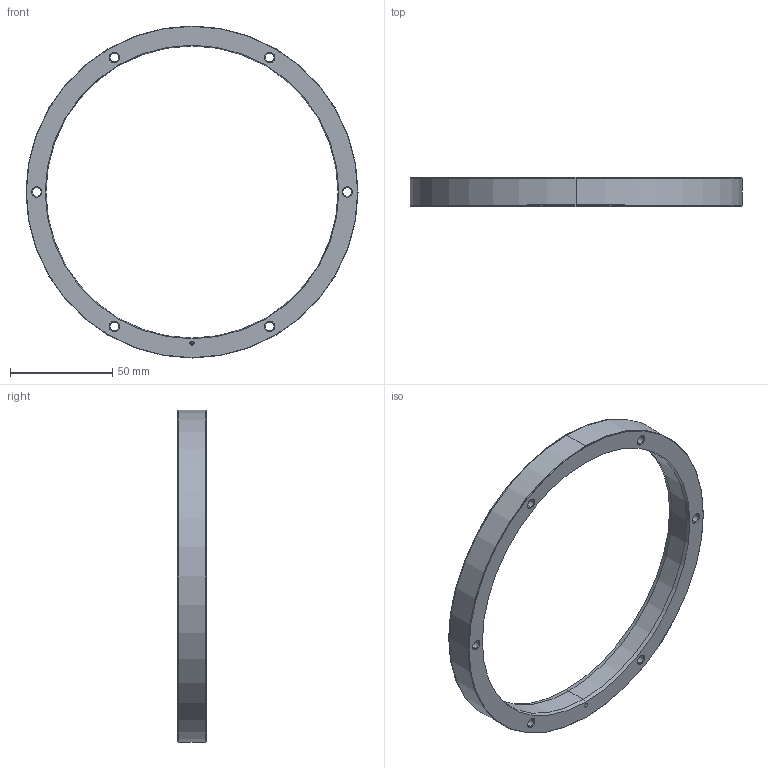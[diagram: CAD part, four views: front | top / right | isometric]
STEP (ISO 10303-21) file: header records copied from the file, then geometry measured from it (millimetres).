
FILE_DESCRIPTION (( 'STEP AP214' ), '1' );
FILE_NAME ('SAR162.STEP', '2023-04-21T12:54:14', ( '' ), ( '' ), 'SwSTEP 2.0', 'SolidWorks 2020', '' );
FILE_SCHEMA (( 'AUTOMOTIVE_DESIGN' ));
Length unit declared in the file: millimetre
Products named in the file (1): SAR162
Bounding box: 162.55 x 14 x 162.55 mm (x, y, z)
Volume: 64068.7 mm3; surface area: 23511 mm2
Topology: 1 solids, 1 shells, 553 faces, 1488 edges, 978 vertices
Faces by surface type: plane 367, bspline 116, cylinder 34, cone 32, torus 4
Entity records: 23195 total; most frequent: CARTESIAN_POINT 9188, ORIENTED_EDGE 2968, DIRECTION 2232, EDGE_CURVE 1484, LINE 1148, VECTOR 1148, VERTEX_POINT 978, EDGE_LOOP 612
